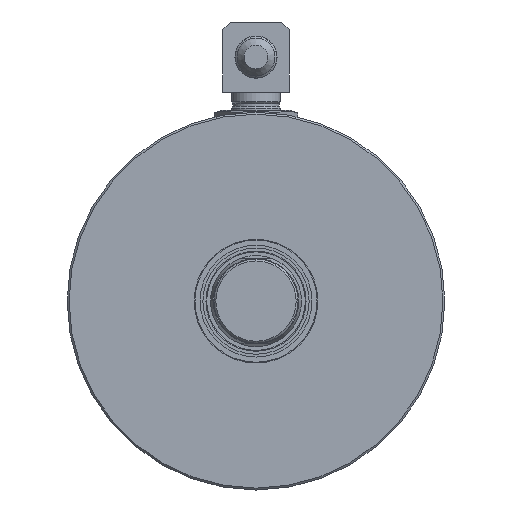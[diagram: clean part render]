
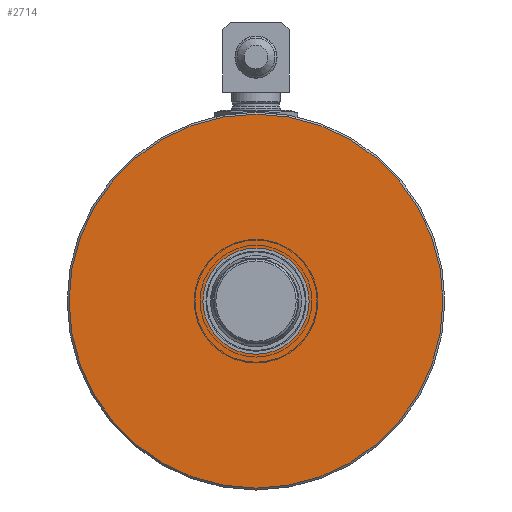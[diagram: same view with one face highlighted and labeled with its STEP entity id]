
A CAD part, left-side view. The second image highlights one B-rep face of the part: STEP entity #2714.
In plain terms, the highlighted planar face has unit normal (-1, 0, 0).
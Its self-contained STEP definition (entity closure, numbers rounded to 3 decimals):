
#125=FACE_BOUND('',#501,.T.);
#182=PLANE('',#2996);
#308=FACE_OUTER_BOUND('',#500,.T.);
#500=EDGE_LOOP('',(#2025));
#501=EDGE_LOOP('',(#2026));
#1006=CIRCLE('',#2997,49.3);
#1007=CIRCLE('',#2998,14.);
#1199=VERTEX_POINT('',#4458);
#1200=VERTEX_POINT('',#4460);
#1490=EDGE_CURVE('',#1199,#1199,#1006,.T.);
#1491=EDGE_CURVE('',#1200,#1200,#1007,.T.);
#2025=ORIENTED_EDGE('',*,*,#1490,.F.);
#2026=ORIENTED_EDGE('',*,*,#1491,.T.);
#2714=ADVANCED_FACE('',(#308,#125),#182,.F.);
#2996=AXIS2_PLACEMENT_3D('',#4457,#3588,#3589);
#2997=AXIS2_PLACEMENT_3D('',#4459,#3590,#3591);
#2998=AXIS2_PLACEMENT_3D('',#4461,#3592,#3593);
#3588=DIRECTION('center_axis',(1.,0.,0.));
#3589=DIRECTION('ref_axis',(0.,0.,1.));
#3590=DIRECTION('center_axis',(1.,0.,0.));
#3591=DIRECTION('ref_axis',(0.,1.,0.));
#3592=DIRECTION('center_axis',(1.,0.,0.));
#3593=DIRECTION('ref_axis',(0.,0.,-1.));
#4457=CARTESIAN_POINT('Origin',(-287.55,0.,0.));
#4458=CARTESIAN_POINT('',(-287.55,-49.3,0.));
#4459=CARTESIAN_POINT('Origin',(-287.55,0.,0.));
#4460=CARTESIAN_POINT('',(-287.55,0.,14.));
#4461=CARTESIAN_POINT('Origin',(-287.55,0.,0.));
